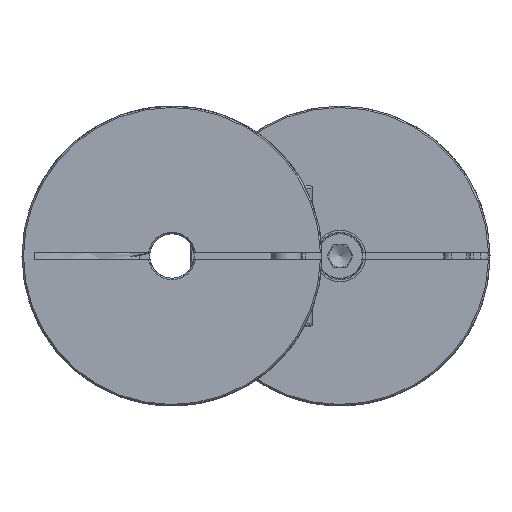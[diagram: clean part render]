
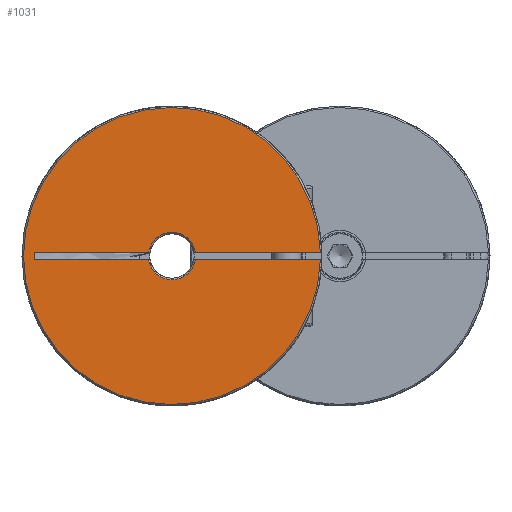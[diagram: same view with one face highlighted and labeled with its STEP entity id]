
A CAD part, left-side view. The second image highlights one B-rep face of the part: STEP entity #1031.
In plain terms, the highlighted planar face has unit normal (-1, 0, 0).
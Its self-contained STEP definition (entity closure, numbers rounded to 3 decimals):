
#1031 = ADVANCED_FACE( 'NONE', ( #1595 ), #1596, .F. );
#1595 = FACE_OUTER_BOUND( '', #1856, .T. );
#1596 = PLANE( '', #1857 );
#1856 = EDGE_LOOP( '', ( #2337, #2338, #2339, #2340, #2341, #2342, #2343, #2344 ) );
#1857 = AXIS2_PLACEMENT_3D( '', #2345, #2346, #2347 );
#2337 = ORIENTED_EDGE( '', *, *, #2726, .T. );
#2338 = ORIENTED_EDGE( '', *, *, #2727, .T. );
#2339 = ORIENTED_EDGE( '', *, *, #2728, .T. );
#2340 = ORIENTED_EDGE( '', *, *, #2729, .T. );
#2341 = ORIENTED_EDGE( '', *, *, #2730, .F. );
#2342 = ORIENTED_EDGE( '', *, *, #2708, .T. );
#2343 = ORIENTED_EDGE( '', *, *, #2704, .F. );
#2344 = ORIENTED_EDGE( '', *, *, #2714, .T. );
#2345 = CARTESIAN_POINT( '', ( 0., 3., 0. ) );
#2346 = DIRECTION( '', ( 1., 0., 0. ) );
#2347 = DIRECTION( '', ( 0., 1., 0. ) );
#2704 = EDGE_CURVE( 'NONE', #3063, #3064, #3065, .F. );
#2708 = EDGE_CURVE( 'NONE', #3070, #3064, #3071, .T. );
#2714 = EDGE_CURVE( 'NONE', #3063, #3079, #3081, .T. );
#2726 = EDGE_CURVE( 'NONE', #3079, #3100, #3101, .T. );
#2727 = EDGE_CURVE( 'NONE', #3100, #3102, #3103, .T. );
#2728 = EDGE_CURVE( 'NONE', #3102, #3104, #3105, .T. );
#2729 = EDGE_CURVE( 'NONE', #3104, #3106, #3107, .F. );
#2730 = EDGE_CURVE( 'NONE', #3070, #3106, #3108, .F. );
#3063 = VERTEX_POINT( 'NONE', #3302 );
#3064 = VERTEX_POINT( 'NONE', #3303 );
#3065 = LINE( '', #3304, #3305 );
#3070 = VERTEX_POINT( 'NONE', #3314 );
#3071 = CIRCLE( '', #3315, 3.2 );
#3079 = VERTEX_POINT( 'NONE', #3335 );
#3081 = LINE( '', #3337, #3338 );
#3100 = VERTEX_POINT( 'NONE', #3362 );
#3101 = LINE( '', #3363, #3364 );
#3102 = VERTEX_POINT( 'NONE', #3365 );
#3103 = CIRCLE( '', #3366, 3.2 );
#3104 = VERTEX_POINT( 'NONE', #3367 );
#3105 = LINE( '', #3368, #3369 );
#3106 = VERTEX_POINT( 'NONE', #3370 );
#3107 = CIRCLE( '', #3371, 20.05 );
#3108 = LINE( '', #3372, #3373 );
#3302 = CARTESIAN_POINT( '', ( 0., 18.545, -0.5 ) );
#3303 = CARTESIAN_POINT( '', ( 0., 3.161, -0.5 ) );
#3304 = CARTESIAN_POINT( '', ( 0., -3.5, -0.5 ) );
#3305 = VECTOR( '', #3546, 1000. );
#3314 = CARTESIAN_POINT( '', ( 0., -3.161, -0.5 ) );
#3315 = AXIS2_PLACEMENT_3D( '', #3551, #3552, #3553 );
#3335 = CARTESIAN_POINT( '', ( 0., 18.545, 0.5 ) );
#3337 = CARTESIAN_POINT( '', ( 0., 18.545, -0.5 ) );
#3338 = VECTOR( '', #3558, 1000. );
#3362 = CARTESIAN_POINT( '', ( 0., 3.161, 0.5 ) );
#3363 = CARTESIAN_POINT( '', ( 0., 3., 0.5 ) );
#3364 = VECTOR( '', #3582, 1000. );
#3365 = CARTESIAN_POINT( '', ( 0., -3.161, 0.5 ) );
#3366 = AXIS2_PLACEMENT_3D( '', #3583, #3584, #3585 );
#3367 = CARTESIAN_POINT( '', ( 0., -20.044, 0.5 ) );
#3368 = CARTESIAN_POINT( '', ( 0., 3., 0.5 ) );
#3369 = VECTOR( '', #3586, 1000. );
#3370 = CARTESIAN_POINT( '', ( 0., -20.044, -0.5 ) );
#3371 = AXIS2_PLACEMENT_3D( '', #3587, #3588, #3589 );
#3372 = CARTESIAN_POINT( '', ( 0., -3.5, -0.5 ) );
#3373 = VECTOR( '', #3590, 1000. );
#3546 = DIRECTION( '', ( 0., 1., 0. ) );
#3551 = CARTESIAN_POINT( '', ( 0., 0., 0. ) );
#3552 = DIRECTION( '', ( 1., 0., 0. ) );
#3553 = DIRECTION( '', ( 0., 0., -1. ) );
#3558 = DIRECTION( '', ( 0., 0., 1. ) );
#3582 = DIRECTION( '', ( 0., -1., 0. ) );
#3583 = CARTESIAN_POINT( '', ( 0., 0., 0. ) );
#3584 = DIRECTION( '', ( 1., 0., 0. ) );
#3585 = DIRECTION( '', ( 0., 0., -1. ) );
#3586 = DIRECTION( '', ( 0., -1., 0. ) );
#3587 = CARTESIAN_POINT( '', ( 0., 0., 0. ) );
#3588 = DIRECTION( '', ( 1., 0., 0. ) );
#3589 = DIRECTION( '', ( 0., 0., -1. ) );
#3590 = DIRECTION( '', ( 0., 1., 0. ) );
